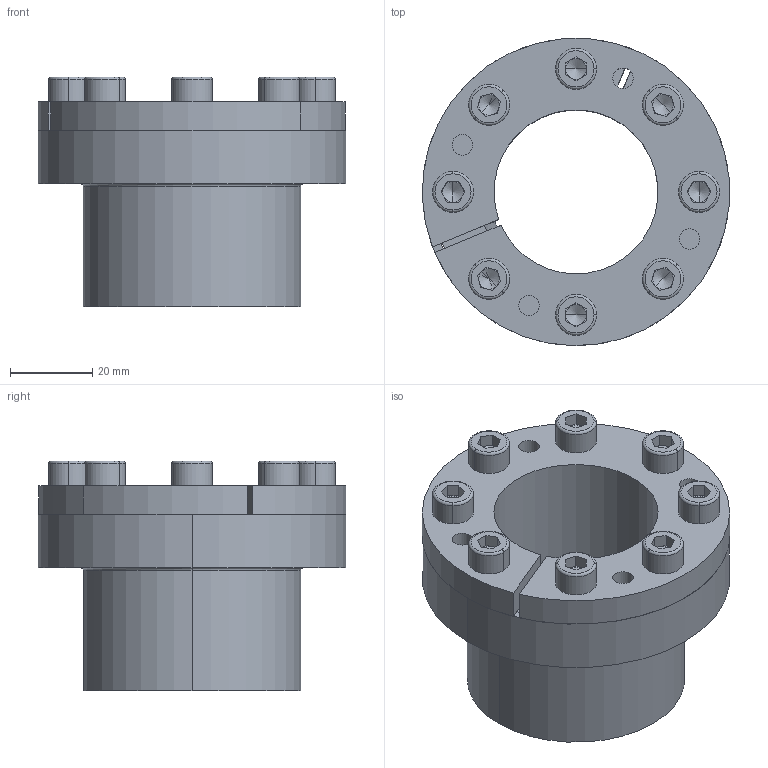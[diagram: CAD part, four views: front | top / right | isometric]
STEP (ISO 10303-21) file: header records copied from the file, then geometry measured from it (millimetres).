
FILE_DESCRIPTION (( 'STEP AP214' ), '1' );
FILE_NAME ('CONEX-B-40x53.step', '2013-04-04T12:41:57', ( 'Pc' ), ( '' ), 'SwSTEP 2.0', 'SolidWorks 2013', '' );
FILE_SCHEMA (( 'AUTOMOTIVE_DESIGN' ));
Length unit declared in the file: millimetre
Products named in the file (1): CONEX-B-40x53
Bounding box: 75 x 75 x 56.04 mm (x, y, z)
Volume: 82286.6 mm3; surface area: 50101.3 mm2
Topology: 11 solids, 11 shells, 296 faces, 682 edges, 408 vertices
Faces by surface type: plane 132, cylinder 88, torus 38, cone 38
Entity records: 11748 total; most frequent: DIRECTION 1578, CARTESIAN_POINT 1419, ORIENTED_EDGE 1332, EDGE_CURVE 666, AXIS2_PLACEMENT_3D 623, VERTEX_POINT 408, EDGE_LOOP 354, VECTOR 332
